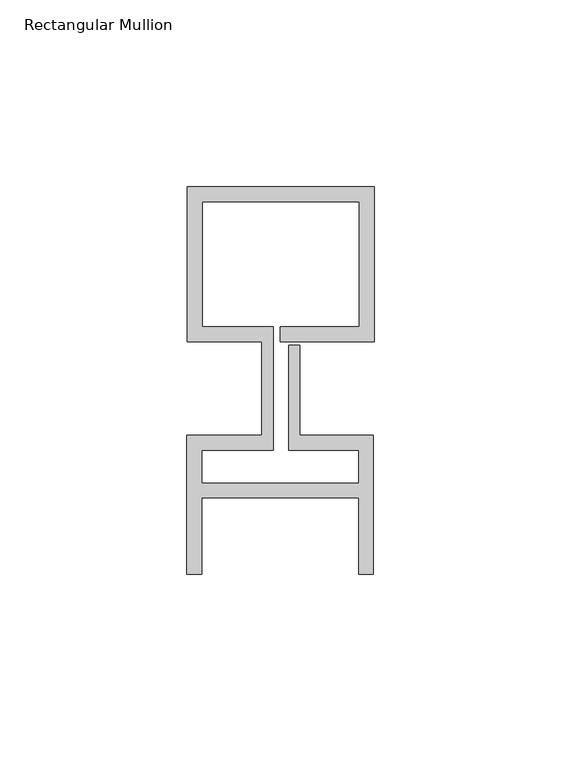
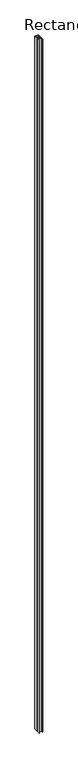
"""IFC4 building model written with IfcOpenShell, lengths in millimetres: member geometry, Rectangular Mullion : Reynaers_CW-50_Mullion-Transom_Vertical_41.5mm_Facecap-03."""

from ifc_helpers import new_model, si_unit, frame, origin, place, context, project, spatial, polyline, outline, extrude, source, transform, mapped, element, save


def rectangular_mullion_7672b1c6(model_context):
    return source(origin(), model_context, "Body", "SweptSolid", [
        extrude(outline(polyline([(-24.8004059, 54.0), (25.1995941, 54.0), (25.1995941, 12.5), (0.0, 12.5), (0.0, 16.5), (21.1995941, 16.5), (21.1995941, 50.0), (-20.8004059, 50.0), (-20.8004059, 16.5), (-1.9004059, 16.5), (-1.9004059, -16.5), (-20.994845, -16.5), (-20.994845, -25.3268728), (20.994845, -25.3268728), (20.994845, -16.5), (2.2995941, -16.5), (2.2995941, 11.5), (5.2995941, 11.5), (5.2995941, -12.5), (24.994845, -12.5), (24.994845, -49.8), (20.994845, -49.8), (20.994845, -29.3268728), (-20.994845, -29.3268728), (-20.994845, -49.8), (-24.994845, -49.8), (-24.994845, -12.5), (-4.9004059, -12.5), (-4.9004059, 12.5), (-24.8004059, 12.5), (-24.8004059, 54.0)])), frame((0.0, 0.0, -10400.0), z_axis=(0.0, 0.0, 1.0), x_axis=(1.0, 0.0, 0.0)), (0.0, 0.0, 1.0), 10400.0),
    ])


if __name__ == "__main__":
    model = new_model("IFC4")
    model_context = context("Model", 3, world=origin())
    ifc_project = project(units=[si_unit("LENGTHUNIT", "METRE", prefix="MILLI")], contexts=[model_context])
    site = spatial("IfcSite", under=ifc_project)
    building = spatial("IfcBuilding", under=site)
    placement = place(None, origin())
    rectangular_mullion_shape = rectangular_mullion_7672b1c6(model_context)
    element("IfcMember", 1, ObjectType="Rectangular Mullion : Reynaers_CW-50_Mullion-Transom_Vertical_41.5mm_Facecap-03", at=placement, inside=building, context=model_context, shape_type="MappedRepresentation", body=[
        mapped(rectangular_mullion_shape, transform((0.0, 0.0, 0.0), x_axis=(1.0, 0.0, 0.0), y_axis=(0.0, 1.0, 0.0), z_axis=(0.0, 0.0, 1.0))),
    ])
    save(model, "model.ifc")
